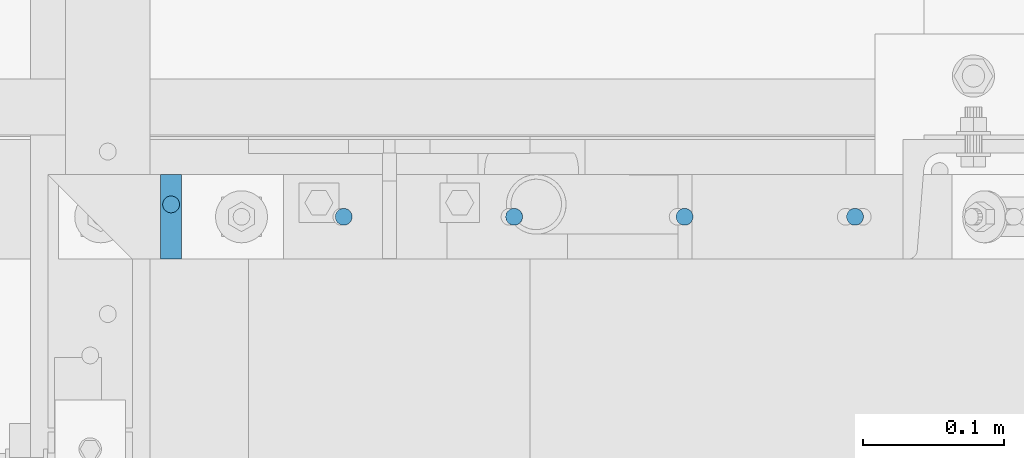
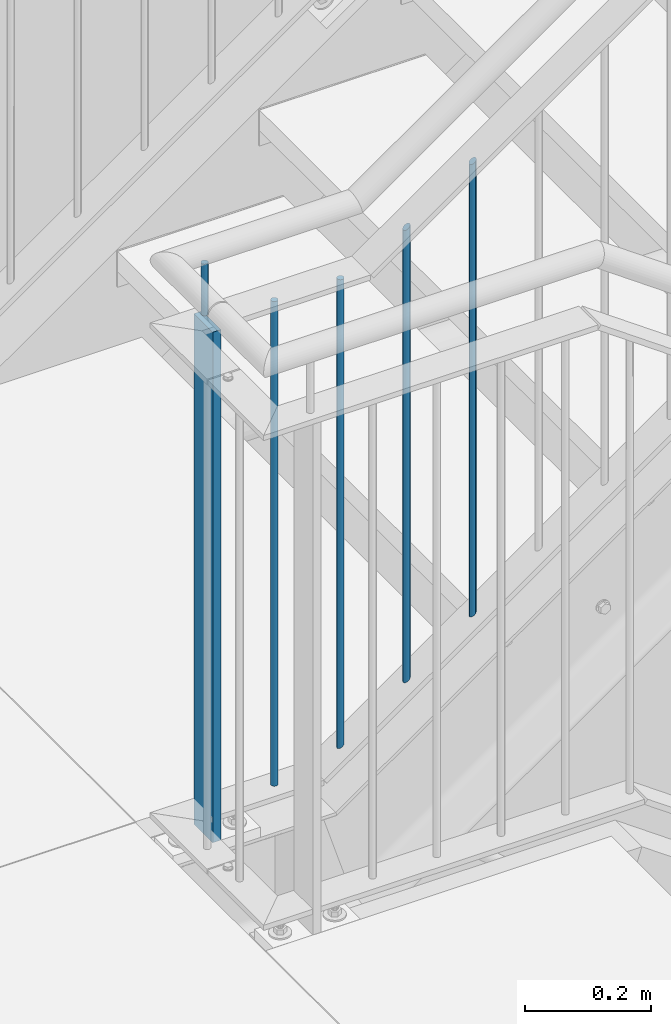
# One storey, part 25 of 825: 6 columns.
"""IFC2X3 building model written with IfcOpenShell, lengths in millimetres."""

from ifc_helpers import new_model, entity, si_unit, converted_unit, frame, origin, origin_with_axes, origin_2d, place, context, project, spatial, rectangle, circle, extrude, clip, halfspace, material, element, save


model = new_model("IFC2X3")

# Units and contexts
model_context = context("Model", 3, precision=1e-09, world=origin_with_axes())
ifc_project = project(units=[si_unit("LENGTHUNIT", "METRE", prefix="MILLI"), si_unit("AREAUNIT", "SQUARE_METRE"), si_unit("VOLUMEUNIT", "CUBIC_METRE"), converted_unit("PLANEANGLEUNIT", "DEGREE", entity("IfcPlaneAngleMeasure", 0.01745329), si_unit("PLANEANGLEUNIT", "RADIAN"), dimensions=[0, 0, 0, 0, 0, 0, 0])], contexts=[model_context])

# Site, building, storey
site_placement = place(None, origin_with_axes())
site = spatial("IfcSite", under=ifc_project, at=site_placement, Name="Cnopf'sche Kinderklinik", CompositionType="ELEMENT")
building_placement = place(site_placement, origin_with_axes())
building = spatial("IfcBuilding", under=site, at=building_placement, Name="Struktur 1", CompositionType="ELEMENT")
storey_placement = place(building_placement, origin_with_axes())
storey = spatial("IfcBuildingStorey", under=building, at=storey_placement, Name="Default Storey", CompositionType="ELEMENT", Elevation=0.0)

# Columns
ifc_material = material(Name="S235JR")
column_1_placement = place(None, frame((4701.713402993, 6091.736971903, 4886.723292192), z_axis=(0.0, 0.0, 1.0), x_axis=(1.0, 0.0, 0.0)))
element("IfcColumn", 1, at=column_1_placement, inside=storey, material=ifc_material, Name="Railing_Post_Landing#0", ObjectType="Railing_Post_Landing#0", context=model_context, shape_type="Clipping", body=[
    clip(clip(extrude(rectangle(XDim=15.0, YDim=60.0, at=origin_2d()), origin(), (0.0, 0.0, -1.0), 1070.646584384), halfspace(frame((-4701.713402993, -6091.736971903, -1019.722292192), z_axis=(0.0, 0.0, 1.0), x_axis=(1.0, 0.0, 0.0)), True)), halfspace(frame((-4701.713402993, -6091.736971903, -30.924292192), z_axis=(0.0, 0.0, -1.0), x_axis=(-1.0, 0.0, 0.0)), True)),
])
column_2_placement = place(None, frame((4824.293402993, 6091.736971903, 4869.285281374), z_axis=(0.0, 0.0, 1.0), x_axis=(1.0, 0.0, 0.0)))
element("IfcColumn", 2, at=column_2_placement, inside=storey, material=ifc_material, Name="Railing_Picket_Landing#0", ObjectType="Railing_Picket_Landing#0", context=model_context, shape_type="Clipping", body=[
    clip(extrude(circle(Radius=6.0, at=origin_2d()), origin(), (0.0, 0.0, -1.0), 952.285281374), halfspace(frame((-4824.293402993, -6091.736971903, -13.486281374), z_axis=(0.0, 0.0, -1.0), x_axis=(-1.0, 0.0, 0.0)), True)),
])
column_3_placement = place(None, frame((4945.377875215, 6091.736971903, 4855.8), z_axis=(0.0, 0.0, 1.0), x_axis=(1.0, 0.0, 0.0)))
element("IfcColumn", 3, at=column_3_placement, inside=storey, material=ifc_material, Name="Railing_Picket_Stair#1", ObjectType="Railing_Picket_Stair#1", context=model_context, shape_type="Clipping", body=[
    clip(extrude(circle(Radius=6.0, at=origin_2d()), origin(), (0.0, 0.0, -1.0), 915.634464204), halfspace(frame((-5168.277041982, -6091.736971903, -4538.747917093), z_axis=(-0.575128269, 0.0, 0.818063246), x_axis=(0.0, -1.0, 0.0)), True)),
])
column_4_placement = place(None, frame((5066.462347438, 6091.736971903, 4922.330320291), z_axis=(0.0, 0.0, 1.0), x_axis=(1.0, 0.0, 0.0)))
element("IfcColumn", 4, at=column_4_placement, inside=storey, material=ifc_material, Name="Railing_Picket_Stair#2", ObjectType="Railing_Picket_Stair#2", context=model_context, shape_type="Clipping", body=[
    clip(clip(extrude(circle(Radius=6.0, at=origin_2d()), origin(), (0.0, 0.0, -1.0), 897.037988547), halfspace(frame((-5701.648681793, -6091.736971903, -4018.840400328), z_axis=(0.575128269, 0.0, -0.818063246), x_axis=(0.0, 1.0, 0.0)), True)), halfspace(frame((-5289.361514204, -6091.736971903, -4605.278237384), z_axis=(-0.575128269, 0.0, 0.818063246), x_axis=(0.0, -1.0, 0.0)), True)),
])
column_5_placement = place(None, frame((5187.54681966, 6091.736971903, 5007.45711624), z_axis=(0.0, 0.0, 1.0), x_axis=(1.0, 0.0, 0.0)))
element("IfcColumn", 5, at=column_5_placement, inside=storey, material=ifc_material, Name="Railing_Picket_Stair#3", ObjectType="Railing_Picket_Stair#3", context=model_context, shape_type="Clipping", body=[
    clip(clip(extrude(circle(Radius=6.0, at=origin_2d()), origin(), (0.0, 0.0, -1.0), 897.037988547), halfspace(frame((-5822.733154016, -6091.736971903, -4103.967196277), z_axis=(0.575128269, 0.0, -0.818063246), x_axis=(0.0, 1.0, 0.0)), True)), halfspace(frame((-5410.445986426, -6091.736971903, -4690.405033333), z_axis=(-0.575128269, 0.0, 0.818063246), x_axis=(0.0, -1.0, 0.0)), True)),
])
column_6_placement = place(None, frame((4701.713402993, 6100.536971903, 4974.285281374), z_axis=(0.0, 0.0, 1.0), x_axis=(0.0, -1.0, 0.0)))
element("IfcColumn", 6, at=column_6_placement, inside=storey, material=ifc_material, Name="Bar#0", ObjectType="Bar#0", context=model_context, shape_type="Clipping", body=[
    clip(clip(extrude(circle(Radius=6.0, at=origin_2d()), origin(), (0.0, 0.0, -1.0), 116.970562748), halfspace(frame((6100.536971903, -4701.713402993, -8.486281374), z_axis=(0.0, 0.0, -1.0), x_axis=(0.0, -1.0, 0.0)), True)), halfspace(frame((6100.536971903, -4701.713402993, -108.484281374), z_axis=(0.0, 0.0, 1.0), x_axis=(0.0, 1.0, 0.0)), True)),
])

save(model, "model.ifc")
